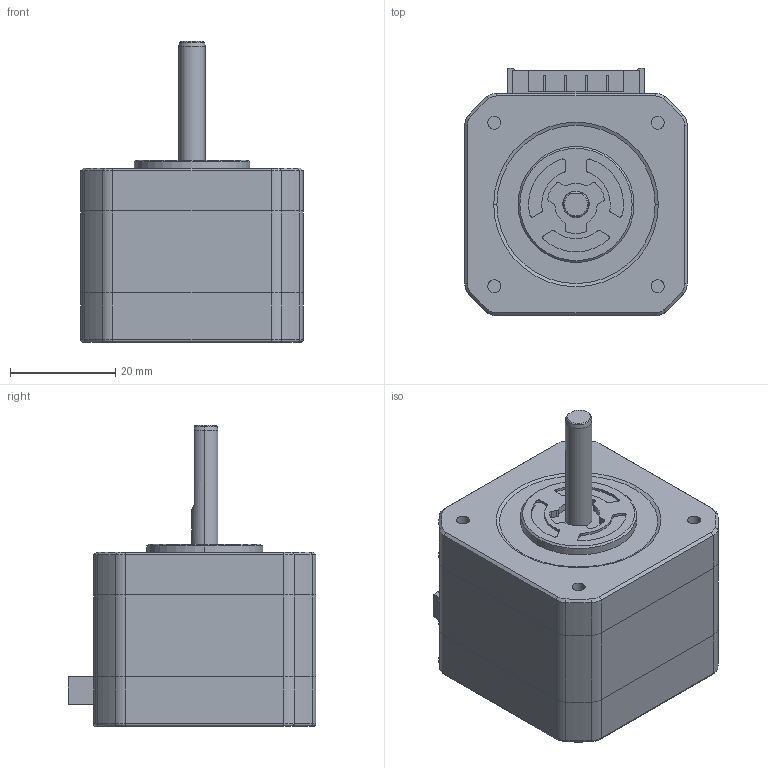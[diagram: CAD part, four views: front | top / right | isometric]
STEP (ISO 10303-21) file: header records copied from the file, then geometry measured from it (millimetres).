
FILE_DESCRIPTION (( 'STEP AP203' ), '1' );
FILE_NAME ('SF2421-10B41.STEP', '2019-05-15T00:35:19', ( 'sanyodenki-admin' ), ( '' ), 'SwSTEP 2.0', 'SolidWorks 2017', '' );
FILE_SCHEMA (( 'CONFIG_CONTROL_DESIGN' ));
Length unit declared in the file: millimetre
Products named in the file (1): SF2421-10B41
Bounding box: 42.15 x 46.98 x 57.1 mm (x, y, z)
Volume: 57295.5 mm3; surface area: 18334.3 mm2
Topology: 11 solids, 11 shells, 441 faces, 1104 edges, 706 vertices
Faces by surface type: plane 200, cylinder 181, cone 38, torus 14, bspline 8
Entity records: 13389 total; most frequent: CARTESIAN_POINT 2502, DIRECTION 2368, ORIENTED_EDGE 2196, EDGE_CURVE 1098, AXIS2_PLACEMENT_3D 854, VERTEX_POINT 706, LINE 660, VECTOR 660
